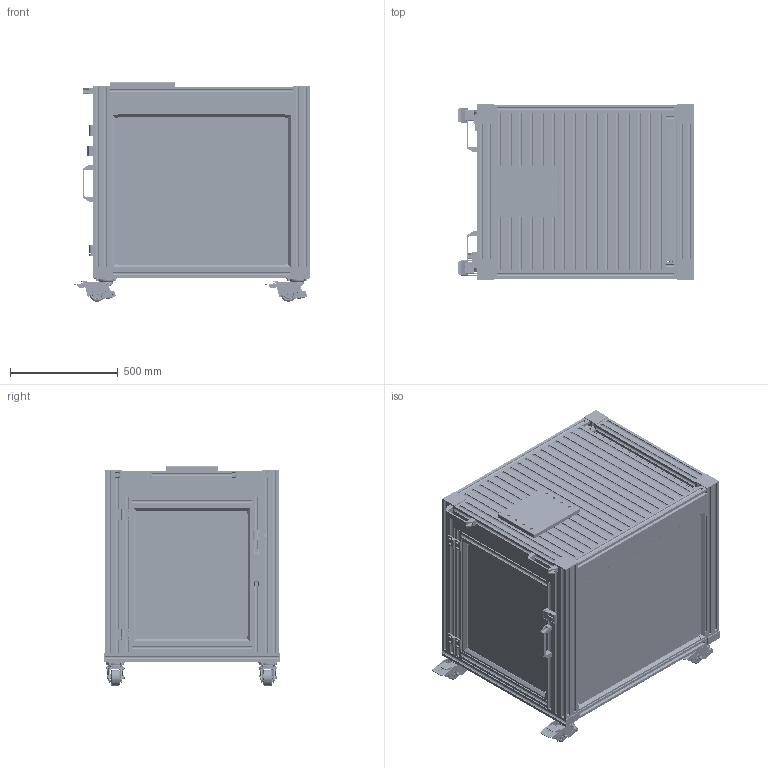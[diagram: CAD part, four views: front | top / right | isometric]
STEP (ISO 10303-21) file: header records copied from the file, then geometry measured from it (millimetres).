
FILE_DESCRIPTION(('STEP AP214'),'1');
FILE_NAME('Cobot-Station klein - 1010x810x1000 mit Flanschplatte.stp','2026-06-15T12:00:08',(' '),(' '),'Spatial InterOp 3D',' ',' ');
FILE_SCHEMA(('AUTOMOTIVE_DESIGN { 1 0 10303 214 1 1 1 1 }'));
Length unit declared in the file: millimetre
Products named in the file (428): Tür; DOR4551; DOR4501; DOR4511; 1; PAN____P_N____ + CAL4515SNN____ + CAN4501; Polycarbonat; CAL4515SNN____; CAN4501; 101419; 101420; PIM4040SNN718,4; PIL4040S2N560; PIM4040SNN718,40; FAS4041_vvm; FAS4040; 101044; 100941; TIN4506; CAP4041; Cobot 1010x810x1000 Ohne Flanschplatte; BS Heberolle W120.B15.075; 2; 3; 94; 97; 98; 99; 100; 101; 102; 103; 104; 105; 108; 109; 110; 111; 112; 113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
Assembly tree (516 placements, depth 6):
  1329226 (1)
    Cobot 1010x810x1000 Ohne Flanschplatte
      Tür
        DOR4551
        DOR4501
        DOR4511
          DOR4511
          1
        DOR4511
          DOR4511
          1
        PAN____P_N____ + CAL4515SNN____ + CAN4501
          Polycarbonat
          CAL4515SNN____
          CAN4501
            101419
            101420
          CAL4515SNN____
          CAL4515SNN____
          CAL4515SNN____
          CAN4501
            101419
            101420
          CAN4501
            101419
            101420
          CAN4501
            101419
            101420
        PIM4040SNN718,4
        PIL4040S2N560
        PIM4040SNN718,40
        PIL4040S2N560
        FAS4041_vvm
          FAS4040
          101044
          100941  x2
          TIN4506  x2
        FAS4041_vvm
          FAS4040
          101044
          100941  x2
          TIN4506  x2
        FAS4041_vvm
          FAS4040
          101044
          100941  x2
          TIN4506  x2
        FAS4041_vvm
          FAS4040
          101044
          100941  x2
          TIN4506  x2
        CAP4041
        CAP4041
        CAP4041
        CAP4041
      Räder inkl. Verschraubung
        BS Heberolle W120.B15.075
          1
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Bounding box: 1097.74 x 818 x 1020.01 mm (x, y, z)
Volume: 50909549.1 mm3; surface area: 18643123.6 mm2
Topology: 458 solids, 458 shells, 12961 faces, 35949 edges, 24139 vertices
Faces by surface type: plane 8319, cylinder 1613, extrusion 1460, bspline 556, sphere 444, cone 364, torus 205
Full cylindrical faces by diameter (mm): 1 x56, 4 x6, 4.3 x3, 5 x9, 5.1 x1, 5.3 x48, 5.5 x1, 5.6 x16, 6 x64, 6.2 x24, 6.3 x20, 6.5 x10, 7 x23, 8 x76, 8.1 x16, 8.2 x8, 8.5 x27, 8.6 x16, 9 x4, 9.293 x4, 9.5 x1, 10 x44, 10.157 x4, 10.4 x4, 10.5 x8, 11.3 x4, 12 x24, 12.4 x8, 13 x12, 13.06 x4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
Entity records: 589384 total; most frequent: CARTESIAN_POINT 171641, ORIENTED_EDGE 65862, DIRECTION 54523, EDGE_CURVE 32931, VECTOR 23215, VERTEX_POINT 23080, LINE 21755, AXIS2_PLACEMENT_3D 15654
